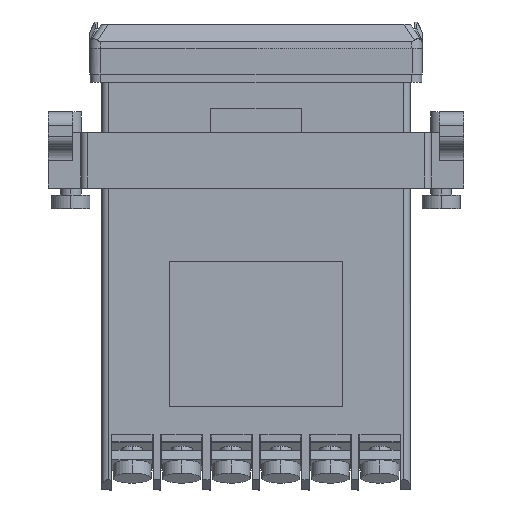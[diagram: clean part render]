
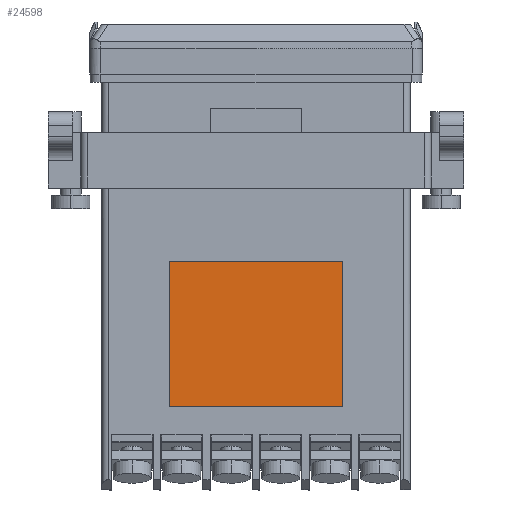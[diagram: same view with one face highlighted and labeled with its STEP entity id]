
A CAD part, left-side view. The second image highlights one B-rep face of the part: STEP entity #24598.
In plain terms, the highlighted planar face has unit normal (-1, 0, 0).
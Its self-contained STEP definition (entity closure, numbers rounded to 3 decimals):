
#5031 = DIRECTION ( 'NONE',  ( 0., 1., 0. ) ) ;
#5470 = VECTOR ( 'NONE', #25401, 1000. ) ;
#7017 = LINE ( 'NONE', #32551, #42546 ) ;
#7243 = EDGE_CURVE ( 'NONE', #10513, #29774, #14598, .T. ) ;
#7434 = ORIENTED_EDGE ( 'NONE', *, *, #7243, .T. ) ;
#8884 = EDGE_LOOP ( 'NONE', ( #31076, #7434, #14746, #9918 ) ) ;
#9918 = ORIENTED_EDGE ( 'NONE', *, *, #18695, .T. ) ;
#10513 = VERTEX_POINT ( 'NONE', #36659 ) ;
#11550 = CARTESIAN_POINT ( 'NONE',  ( -22., 12.5, -48. ) ) ;
#12036 = VERTEX_POINT ( 'NONE', #41424 ) ;
#14598 = LINE ( 'NONE', #11550, #5470 ) ;
#14746 = ORIENTED_EDGE ( 'NONE', *, *, #38491, .T. ) ;
#15827 = CARTESIAN_POINT ( 'NONE',  ( -22., 0., 0. ) ) ;
#18051 = VECTOR ( 'NONE', #29589, 1000. ) ;
#18695 = EDGE_CURVE ( 'NONE', #12036, #43623, #41222, .T. ) ;
#19111 = LINE ( 'NONE', #19204, #18051 ) ;
#19204 = CARTESIAN_POINT ( 'NONE',  ( -22., -12.5, -48. ) ) ;
#19305 = DIRECTION ( 'NONE',  ( 1., 0., 0. ) ) ;
#19824 = CARTESIAN_POINT ( 'NONE',  ( -22., -12.5, -27. ) ) ;
#21107 = DIRECTION ( 'NONE',  ( 0., 0., 1. ) ) ;
#21533 = EDGE_CURVE ( 'NONE', #43623, #10513, #7017, .T. ) ;
#22920 = VECTOR ( 'NONE', #21107, 1000. ) ;
#24597 = CARTESIAN_POINT ( 'NONE',  ( -22., -12.5, -48. ) ) ;
#24598 = ADVANCED_FACE ( 'NONE', ( #31293 ), #36454, .F. ) ;
#25401 = DIRECTION ( 'NONE',  ( 0., 0., -1. ) ) ;
#29589 = DIRECTION ( 'NONE',  ( 0., -1., 0. ) ) ;
#29774 = VERTEX_POINT ( 'NONE', #31151 ) ;
#31076 = ORIENTED_EDGE ( 'NONE', *, *, #21533, .T. ) ;
#31151 = CARTESIAN_POINT ( 'NONE',  ( -22., 12.5, -48. ) ) ;
#31293 = FACE_OUTER_BOUND ( 'NONE', #8884, .T. ) ;
#32551 = CARTESIAN_POINT ( 'NONE',  ( -22., -12.5, -27. ) ) ;
#33933 = AXIS2_PLACEMENT_3D ( 'NONE', #15827, #19305, #43369 ) ;
#36454 = PLANE ( 'NONE',  #33933 ) ;
#36659 = CARTESIAN_POINT ( 'NONE',  ( -22., 12.5, -27. ) ) ;
#38491 = EDGE_CURVE ( 'NONE', #29774, #12036, #19111, .T. ) ;
#41222 = LINE ( 'NONE', #24597, #22920 ) ;
#41424 = CARTESIAN_POINT ( 'NONE',  ( -22., -12.5, -48. ) ) ;
#42546 = VECTOR ( 'NONE', #5031, 1000. ) ;
#43369 = DIRECTION ( 'NONE',  ( 0., 0., -1. ) ) ;
#43623 = VERTEX_POINT ( 'NONE', #19824 ) ;
